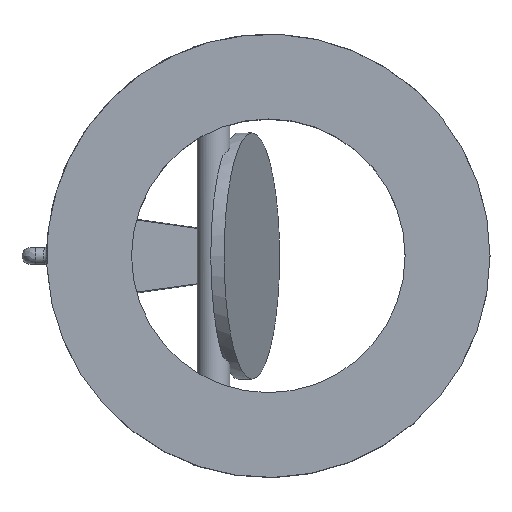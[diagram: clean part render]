
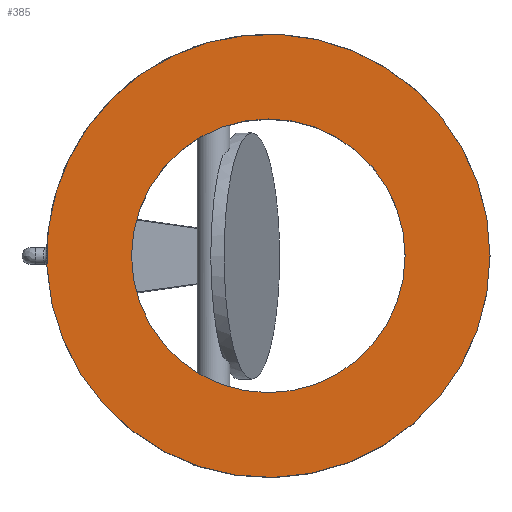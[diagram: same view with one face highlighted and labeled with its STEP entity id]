
A CAD part, top view. The second image highlights one B-rep face of the part: STEP entity #385.
In plain terms, the highlighted planar face has unit normal (0, 0, 1).
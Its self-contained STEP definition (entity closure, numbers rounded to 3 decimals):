
#385 = ADVANCED_FACE( '', ( #924, #925 ), #926, .F. );
#924 = FACE_OUTER_BOUND( '', #4054, .T. );
#925 = FACE_BOUND( '', #4055, .T. );
#926 = PLANE( '', #4056 );
#4054 = EDGE_LOOP( '', ( #9327 ) );
#4055 = EDGE_LOOP( '', ( #9328 ) );
#4056 = AXIS2_PLACEMENT_3D( '', #9329, #9330, #9331 );
#9327 = ORIENTED_EDGE( '', *, *, #10807, .F. );
#9328 = ORIENTED_EDGE( '', *, *, #10677, .F. );
#9329 = CARTESIAN_POINT( '', ( 0., 0., 32. ) );
#9330 = DIRECTION( '', ( 0., 0., -1. ) );
#9331 = DIRECTION( '', ( -1., 0., 0. ) );
#10677 = EDGE_CURVE( '', #11552, #11552, #11553, .F. );
#10807 = EDGE_CURVE( '', #11762, #11762, #11763, .T. );
#11552 = VERTEX_POINT( '', #14714 );
#11553 = CIRCLE( '', #14715, 50. );
#11762 = VERTEX_POINT( '', #16055 );
#11763 = CIRCLE( '', #16056, 81. );
#14714 = CARTESIAN_POINT( '', ( -50., 0., 32. ) );
#14715 = AXIS2_PLACEMENT_3D( '', #20080, #20081, #20082 );
#16055 = CARTESIAN_POINT( '', ( 81., 0., 32. ) );
#16056 = AXIS2_PLACEMENT_3D( '', #20107, #20108, #20109 );
#20080 = CARTESIAN_POINT( '', ( 0., 0., 32. ) );
#20081 = DIRECTION( '', ( 0., 0., -1. ) );
#20082 = DIRECTION( '', ( -1., 0., 0. ) );
#20107 = CARTESIAN_POINT( '', ( 0., 0., 32. ) );
#20108 = DIRECTION( '', ( 0., 0., -1. ) );
#20109 = DIRECTION( '', ( 1., 0., 0. ) );
